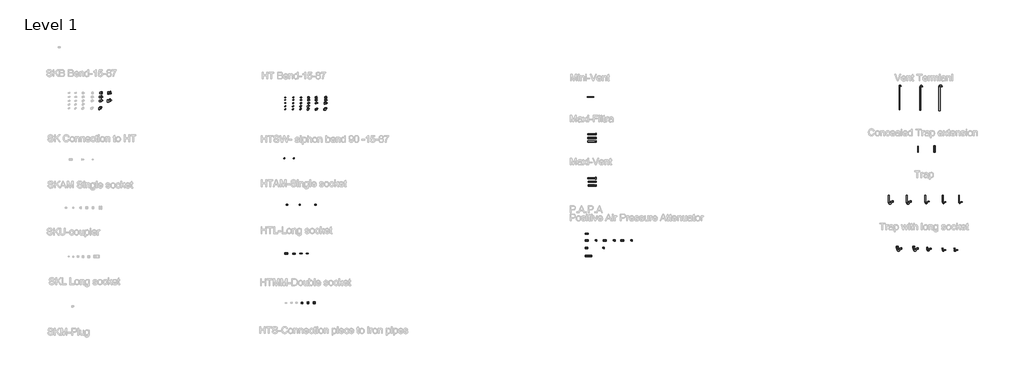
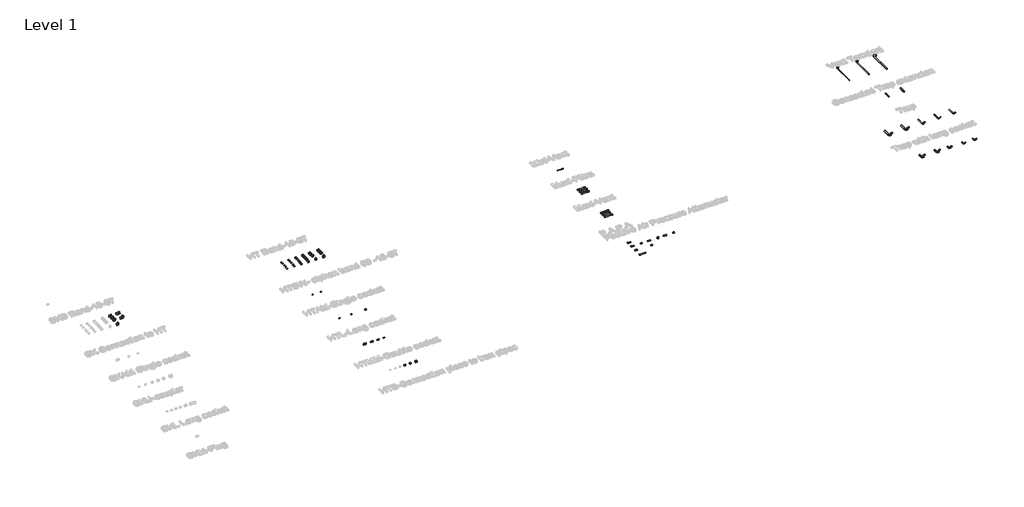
# One storey, part 3 of 29: 61 pipe fittings, 13 pipe segments, 11 valves, 3 coverings.
"""IFC4 building model written with IfcOpenShell, lengths in millimetres."""

from ifc_helpers import new_model, si_unit, point, frame, frame_2d, origin, place, context, project, spatial, circle_curve, trimmed, segment, composite_curve, outline, extrude, transform, mapped, element, save
from components import std_c07d875e, pipe_fitting_6eb50a13, pipe_fitting_cccb87dc, pipe_fitting_fc833b45, pipe_fitting_c942d72f, pipe_fitting_0ed91284, pipe_fitting_1532c8e4, pipe_fitting_fd9ef2f7, pipe_fitting_66c96be0, pipe_fitting_a0dc6f73, pipe_fitting_4eab0d71, pipe_fitting_4222d3d8, pipe_fitting_fda7960f, pipe_fitting_0d2e54e3, pipe_fitting_22db930d, pipe_fitting_aafaf56d, pipe_fitting_bdeb5dc4, pipe_fitting_e31660b5, pipe_fitting_5491f5a7, pipe_fitting_6273c53c, pipe_fitting_beb0df4e, pipe_fitting_cb3342d3, pipe_fitting_f4b4b27d, pipe_fitting_1b43bb9a, pipe_fitting_4065f76d, pipe_fitting_66a794e8, pipe_fitting_19b4c73e, pipe_fitting_52a06b67, pipe_fitting_5a3bc76c, pipe_fitting_a134182b, pipe_fitting_02cc564f, pipe_fitting_0a0cbaeb, pipe_fitting_b2053ce9, pipe_fitting_914f9591, pipe_fitting_105f839c, pipe_fitting_70a45752, pipe_fitting_c8df41f9, pipe_fitting_53c34404, pipe_fitting_e310fe68, pipe_fitting_67239808, pipe_fitting_48ac60f8, pipe_fitting_af56b474, pipe_fitting_9ea7e918, pipe_fitting_4dd23337, pipe_fitting_a972d585, pipe_fitting_531c0b5e, pipe_fitting_bc2beba0, pipe_fitting_799c62f6, pipe_fitting_26a0cade, pipe_fitting_4485368d, pipe_fitting_3becbbaa, pipe_fitting_54a89096, pipe_fitting_37d2b716, pipe_fitting_0eb0e26d, pipe_fitting_2dfee5c5, pipe_fitting_c8fc06a6, pipe_fitting_be7a3b5e, pipe_fitting_2ccdf74a, pipe_fitting_dd2cafb6, pipe_fitting_202c8df2, valve_b1cd4743, valve_471c44af, valve_1a6bec72, std_7a792acf

model = new_model("IFC4")

# Units and contexts
model_context = context("Model", 3, world=origin())
ifc_project = project(units=[si_unit("LENGTHUNIT", "METRE", prefix="MILLI")], contexts=[model_context])

# Site, building, storey
site = spatial("IfcSite", under=ifc_project)
building = spatial("IfcBuilding", under=site)
storey = spatial("IfcBuildingStorey", under=building, Name="Level 1", Elevation=0.0)

# Coverings
placement = place(None, origin())
std_shape = std_c07d875e(model_context)
element("IfcCovering", 1, ObjectType="Superdrain_alu cover -sh : std", at=placement, inside=storey, context=model_context, shape_type="MappedRepresentation", body=[
    mapped(std_shape, transform((44087.6298597, 20724.1021309, -0.0813961), x_axis=(0.00045242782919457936, 0.0, -0.9999998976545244), y_axis=(0.0, 0.9999999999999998, 0.0), z_axis=(0.9999998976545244, 0.0, 0.00045242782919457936))),
])
element("IfcCovering", 2, ObjectType="Superdrain_alu cover -sh : std", at=placement, inside=storey, context=model_context, shape_type="MappedRepresentation", body=[
    mapped(std_shape, transform((44076.9523644, 17155.0245715, -0.0813961), x_axis=(0.00045242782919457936, 0.0, -0.9999998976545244), y_axis=(0.0, 0.9999999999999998, 0.0), z_axis=(0.9999998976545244, 0.0, 0.00045242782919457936))),
])
element("IfcCovering", 3, ObjectType="Superdrain_alu cover -sh : std", at=placement, inside=storey, context=model_context, shape_type="MappedRepresentation", body=[
    mapped(std_shape, transform((45739.8178273, 11635.5641477, 0.0), x_axis=(0.0, 0.0, -1.0000000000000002), y_axis=(0.0, 1.0000000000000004, 0.0), z_axis=(1.0000000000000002, 0.0, 0.0))),
])

# Pipe fittings
pipe_fitting_shape = pipe_fitting_6eb50a13(model_context)
element("IfcPipeFitting", 4, ObjectType="Superdrain Vent Termianl : Superdrain Vent Termianl DN 50", at=placement, inside=storey, context=model_context, shape_type="MappedRepresentation", body=[
    mapped(pipe_fitting_shape, transform((71024.0446005, 23242.2226008, 249.0), x_axis=(1.0, 0.0, 0.0), y_axis=(0.0, 0.0, -1.0000000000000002), z_axis=(0.0, 1.0000000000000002, 0.0))),
])
pipe_fitting_2_shape = pipe_fitting_cccb87dc(model_context)
element("IfcPipeFitting", 5, ObjectType="Superdrain Vent Termianl : Superdrain Vent Termianl DN 75", at=placement, inside=storey, context=model_context, shape_type="MappedRepresentation", body=[
    mapped(pipe_fitting_2_shape, transform((72877.6964069, 23161.7714918, 249.0), x_axis=(1.0, 0.0, 0.0), y_axis=(0.0, 0.0, -1.0000000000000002), z_axis=(0.0, 1.0000000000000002, 0.0))),
])
pipe_fitting_3_shape = pipe_fitting_fc833b45(model_context)
element("IfcPipeFitting", 6, ObjectType="Superdrain Vent Termianl : Superdrain Vent Termianl DN 110", at=placement, inside=storey, context=model_context, shape_type="MappedRepresentation", body=[
    mapped(pipe_fitting_3_shape, transform((74564.3080035, 23114.8913816, 249.0), x_axis=(1.0, 0.0, 0.0), y_axis=(0.0, 0.0, -1.0000000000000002), z_axis=(0.0, 1.0000000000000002, 0.0))),
])
pipe_fitting_4_shape = pipe_fitting_c942d72f(model_context)
element("IfcPipeFitting", 7, ObjectType="Superdrain Concealed Trap extension : Superdrain Concealed Trap extension DN 50", at=placement, inside=storey, context=model_context, shape_type="MappedRepresentation", body=[
    mapped(pipe_fitting_4_shape, transform((72675.0256768, 19459.0765179, 275.0), x_axis=(0.0, 0.0, 1.0000000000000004), y_axis=(1.0000000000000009, 0.0, 0.0), z_axis=(0.0, 1.0000000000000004, 0.0))),
])
pipe_fitting_5_shape = pipe_fitting_0ed91284(model_context)
element("IfcPipeFitting", 8, ObjectType="Superdrain Concealed Trap extension : Superdrain Concealed Trap extension DN 110", at=placement, inside=storey, context=model_context, shape_type="MappedRepresentation", body=[
    mapped(pipe_fitting_5_shape, transform((74131.9084226, 19446.5765179, 294.8751277), x_axis=(0.0, 0.0, -1.0000000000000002), y_axis=(-1.0000000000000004, 0.0, 0.0), z_axis=(0.0, 1.0000000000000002, 0.0))),
])
pipe_fitting_6_shape = pipe_fitting_1532c8e4(model_context)
element("IfcPipeFitting", 9, ObjectType="Superdrain SKB Bend : Superdrain SKB Bend", at=placement, inside=storey, context=model_context, shape_type="MappedRepresentation", body=[
    mapped(pipe_fitting_6_shape, transform((250.4794661, 24709.074399, 0.0), x_axis=(1.0, 0.0, 0.0), y_axis=(0.0, 1.0, 0.0), z_axis=(0.0, 0.0, 1.0))),
])
pipe_fitting_7_shape = pipe_fitting_fd9ef2f7(model_context)
element("IfcPipeFitting", 10, ObjectType="Superdrain SKB Bend : Superdrain SKB Bend", at=placement, inside=storey, context=model_context, shape_type="MappedRepresentation", body=[
    mapped(pipe_fitting_7_shape, transform((250.4794661, 24352.4698153, 0.0), x_axis=(1.0, 0.0, 0.0), y_axis=(0.0, 1.0, 0.0), z_axis=(0.0, 0.0, 1.0))),
])
pipe_fitting_8_shape = pipe_fitting_66c96be0(model_context)
element("IfcPipeFitting", 11, ObjectType="Superdrain SKB Bend : Superdrain SKB Bend", at=placement, inside=storey, context=model_context, shape_type="MappedRepresentation", body=[
    mapped(pipe_fitting_8_shape, transform((250.4794661, 23995.8652317, 0.0), x_axis=(1.0, 0.0, 0.0), y_axis=(0.0, 1.0, 0.0), z_axis=(0.0, 0.0, 1.0))),
])
pipe_fitting_9_shape = pipe_fitting_a0dc6f73(model_context)
element("IfcPipeFitting", 12, ObjectType="Superdrain SKB Bend : Superdrain SKB Bend", at=placement, inside=storey, context=model_context, shape_type="MappedRepresentation", body=[
    mapped(pipe_fitting_9_shape, transform((250.4794661, 23322.0453883, 0.0), x_axis=(1.0, 0.0, 0.0), y_axis=(0.0, 1.0, 0.0), z_axis=(0.0, 0.0, 1.0))),
])
pipe_fitting_10_shape = pipe_fitting_4eab0d71(model_context)
element("IfcPipeFitting", 13, ObjectType="Superdrain SKB Bend : Superdrain SKB Bend", at=placement, inside=storey, context=model_context, shape_type="MappedRepresentation", body=[
    mapped(pipe_fitting_10_shape, transform((999.3677338, 24709.074399, 0.0), x_axis=(1.0, 0.0, 0.0), y_axis=(0.0, 1.0, 0.0), z_axis=(0.0, 0.0, 1.0))),
])
pipe_fitting_11_shape = pipe_fitting_4222d3d8(model_context)
element("IfcPipeFitting", 14, ObjectType="Superdrain SKB Bend : Superdrain SKB Bend", at=placement, inside=storey, context=model_context, shape_type="MappedRepresentation", body=[
    mapped(pipe_fitting_11_shape, transform((999.3677338, 23995.8652317, 0.0), x_axis=(1.0, 0.0, 0.0), y_axis=(0.0, 1.0, 0.0), z_axis=(0.0, 0.0, 1.0))),
])
pipe_fitting_12_shape = pipe_fitting_fda7960f(model_context)
element("IfcPipeFitting", 15, ObjectType="Superdrain HT bend : Superdrain HT Bend", at=placement, inside=storey, context=model_context, shape_type="MappedRepresentation", body=[
    mapped(pipe_fitting_12_shape, transform((16595.9305474, 24312.7216197, 0.0), x_axis=(1.0, 0.0, 0.0), y_axis=(0.0, 1.0, 0.0), z_axis=(0.0, 0.0, 1.0))),
])
pipe_fitting_13_shape = pipe_fitting_0d2e54e3(model_context)
element("IfcPipeFitting", 16, ObjectType="Superdrain HT bend : Superdrain HT Bend", at=placement, inside=storey, context=model_context, shape_type="MappedRepresentation", body=[
    mapped(pipe_fitting_13_shape, transform((16595.9305474, 24084.365173, 0.0), x_axis=(1.0, 0.0, 0.0), y_axis=(0.0, 1.0, 0.0), z_axis=(0.0, 0.0, 1.0))),
])
pipe_fitting_14_shape = pipe_fitting_22db930d(model_context)
element("IfcPipeFitting", 17, ObjectType="Superdrain HT bend : Superdrain HT Bend", at=placement, inside=storey, context=model_context, shape_type="MappedRepresentation", body=[
    mapped(pipe_fitting_14_shape, transform((16595.9305474, 23801.2668768, 0.0), x_axis=(1.0, 0.0, 0.0), y_axis=(0.0, 1.0, 0.0), z_axis=(0.0, 0.0, 1.0))),
])
pipe_fitting_15_shape = pipe_fitting_aafaf56d(model_context)
element("IfcPipeFitting", 18, ObjectType="Superdrain HT bend : Superdrain HT Bend", at=placement, inside=storey, context=model_context, shape_type="MappedRepresentation", body=[
    mapped(pipe_fitting_15_shape, transform((16595.9305474, 23512.7522037, 0.0), x_axis=(1.0, 0.0, 0.0), y_axis=(0.0, 1.0, 0.0), z_axis=(0.0, 0.0, 1.0))),
])
pipe_fitting_16_shape = pipe_fitting_bdeb5dc4(model_context)
element("IfcPipeFitting", 19, ObjectType="Superdrain HT bend : Superdrain HT Bend", at=placement, inside=storey, context=model_context, shape_type="MappedRepresentation", body=[
    mapped(pipe_fitting_16_shape, transform((16595.9305474, 23244.710463, 0.0), x_axis=(1.0, 0.0, 0.0), y_axis=(0.0, 1.0, 0.0), z_axis=(0.0, 0.0, 1.0))),
])
pipe_fitting_17_shape = pipe_fitting_e31660b5(model_context)
element("IfcPipeFitting", 20, ObjectType="Superdrain HT bend : Superdrain HT Bend", at=placement, inside=storey, context=model_context, shape_type="MappedRepresentation", body=[
    mapped(pipe_fitting_17_shape, transform((17295.9305474, 24312.7216197, 0.0), x_axis=(1.0, 0.0, 0.0), y_axis=(0.0, 1.0, 0.0), z_axis=(0.0, 0.0, 1.0))),
])
pipe_fitting_18_shape = pipe_fitting_5491f5a7(model_context)
element("IfcPipeFitting", 21, ObjectType="Superdrain HT bend : Superdrain HT Bend", at=placement, inside=storey, context=model_context, shape_type="MappedRepresentation", body=[
    mapped(pipe_fitting_18_shape, transform((17295.9305474, 24084.365173, 0.0), x_axis=(1.0, 0.0, 0.0), y_axis=(0.0, 1.0, 0.0), z_axis=(0.0, 0.0, 1.0))),
])
pipe_fitting_19_shape = pipe_fitting_6273c53c(model_context)
element("IfcPipeFitting", 22, ObjectType="Superdrain HT bend : Superdrain HT Bend", at=placement, inside=storey, context=model_context, shape_type="MappedRepresentation", body=[
    mapped(pipe_fitting_19_shape, transform((17295.9305474, 23801.2668768, 0.0), x_axis=(1.0, 0.0, 0.0), y_axis=(0.0, 1.0, 0.0), z_axis=(0.0, 0.0, 1.0))),
])
pipe_fitting_20_shape = pipe_fitting_beb0df4e(model_context)
element("IfcPipeFitting", 23, ObjectType="Superdrain HT bend : Superdrain HT Bend", at=placement, inside=storey, context=model_context, shape_type="MappedRepresentation", body=[
    mapped(pipe_fitting_20_shape, transform((17295.9305474, 23512.7522037, 0.0), x_axis=(1.0, 0.0, 0.0), y_axis=(0.0, 1.0, 0.0), z_axis=(0.0, 0.0, 1.0))),
])
pipe_fitting_21_shape = pipe_fitting_cb3342d3(model_context)
element("IfcPipeFitting", 24, ObjectType="Superdrain HT bend : Superdrain HT Bend", at=placement, inside=storey, context=model_context, shape_type="MappedRepresentation", body=[
    mapped(pipe_fitting_21_shape, transform((17295.9305474, 23244.710463, 0.0), x_axis=(1.0, 0.0, 0.0), y_axis=(0.0, 1.0, 0.0), z_axis=(0.0, 0.0, 1.0))),
])
pipe_fitting_22_shape = pipe_fitting_f4b4b27d(model_context)
element("IfcPipeFitting", 25, ObjectType="Superdrain HT bend : Superdrain HT Bend", at=placement, inside=storey, context=model_context, shape_type="MappedRepresentation", body=[
    mapped(pipe_fitting_22_shape, transform((17975.9305474, 24312.7216197, 0.0), x_axis=(1.0, 0.0, 0.0), y_axis=(0.0, 1.0, 0.0), z_axis=(0.0, 0.0, 1.0))),
])
pipe_fitting_23_shape = pipe_fitting_1b43bb9a(model_context)
element("IfcPipeFitting", 26, ObjectType="Superdrain HT bend : Superdrain HT Bend", at=placement, inside=storey, context=model_context, shape_type="MappedRepresentation", body=[
    mapped(pipe_fitting_23_shape, transform((17975.9305474, 24084.365173, 0.0), x_axis=(1.0, 0.0, 0.0), y_axis=(0.0, 1.0, 0.0), z_axis=(0.0, 0.0, 1.0))),
])
pipe_fitting_24_shape = pipe_fitting_4065f76d(model_context)
element("IfcPipeFitting", 27, ObjectType="Superdrain HT bend : Superdrain HT Bend", at=placement, inside=storey, context=model_context, shape_type="MappedRepresentation", body=[
    mapped(pipe_fitting_24_shape, transform((17975.9305474, 23801.2668768, 0.0), x_axis=(1.0, 0.0, 0.0), y_axis=(0.0, 1.0, 0.0), z_axis=(0.0, 0.0, 1.0))),
])
pipe_fitting_25_shape = pipe_fitting_66a794e8(model_context)
element("IfcPipeFitting", 28, ObjectType="Superdrain HT bend : Superdrain HT Bend", at=placement, inside=storey, context=model_context, shape_type="MappedRepresentation", body=[
    mapped(pipe_fitting_25_shape, transform((17975.9305474, 23512.7522037, 0.0), x_axis=(1.0, 0.0, 0.0), y_axis=(0.0, 1.0, 0.0), z_axis=(0.0, 0.0, 1.0))),
])
pipe_fitting_26_shape = pipe_fitting_19b4c73e(model_context)
element("IfcPipeFitting", 29, ObjectType="Superdrain HT bend : Superdrain HT Bend", at=placement, inside=storey, context=model_context, shape_type="MappedRepresentation", body=[
    mapped(pipe_fitting_26_shape, transform((17975.9305474, 23244.710463, 0.0), x_axis=(1.0, 0.0, 0.0), y_axis=(0.0, 1.0, 0.0), z_axis=(0.0, 0.0, 1.0))),
])
pipe_fitting_27_shape = pipe_fitting_52a06b67(model_context)
element("IfcPipeFitting", 30, ObjectType="Superdrain HT bend : Superdrain HT Bend", at=placement, inside=storey, context=model_context, shape_type="MappedRepresentation", body=[
    mapped(pipe_fitting_27_shape, transform((18664.8339318, 24312.7216197, 0.0), x_axis=(1.0, 0.0, 0.0), y_axis=(0.0, 1.0, 0.0), z_axis=(0.0, 0.0, 1.0))),
])
pipe_fitting_28_shape = pipe_fitting_5a3bc76c(model_context)
element("IfcPipeFitting", 31, ObjectType="Superdrain HT bend : Superdrain HT Bend", at=placement, inside=storey, context=model_context, shape_type="MappedRepresentation", body=[
    mapped(pipe_fitting_28_shape, transform((18664.8339318, 24084.365173, 0.0), x_axis=(1.0, 0.0, 0.0), y_axis=(0.0, 1.0, 0.0), z_axis=(0.0, 0.0, 1.0))),
])
pipe_fitting_29_shape = pipe_fitting_a134182b(model_context)
element("IfcPipeFitting", 32, ObjectType="Superdrain HT bend : Superdrain HT Bend", at=placement, inside=storey, context=model_context, shape_type="MappedRepresentation", body=[
    mapped(pipe_fitting_29_shape, transform((18664.8339318, 23801.2668768, 0.0), x_axis=(1.0, 0.0, 0.0), y_axis=(0.0, 1.0, 0.0), z_axis=(0.0, 0.0, 1.0))),
])
pipe_fitting_30_shape = pipe_fitting_02cc564f(model_context)
element("IfcPipeFitting", 33, ObjectType="Superdrain HT bend : Superdrain HT Bend", at=placement, inside=storey, context=model_context, shape_type="MappedRepresentation", body=[
    mapped(pipe_fitting_30_shape, transform((18664.8339318, 23512.7522037, 0.0), x_axis=(1.0, 0.0, 0.0), y_axis=(0.0, 1.0, 0.0), z_axis=(0.0, 0.0, 1.0))),
])
pipe_fitting_31_shape = pipe_fitting_0a0cbaeb(model_context)
element("IfcPipeFitting", 34, ObjectType="Superdrain HT bend : Superdrain HT Bend", at=placement, inside=storey, context=model_context, shape_type="MappedRepresentation", body=[
    mapped(pipe_fitting_31_shape, transform((18664.8339318, 23244.710463, 0.0), x_axis=(1.0, 0.0, 0.0), y_axis=(0.0, 1.0, 0.0), z_axis=(0.0, 0.0, 1.0))),
])
pipe_fitting_32_shape = pipe_fitting_b2053ce9(model_context)
element("IfcPipeFitting", 35, ObjectType="Superdrain HT bend : Superdrain HT Bend", at=placement, inside=storey, context=model_context, shape_type="MappedRepresentation", body=[
    mapped(pipe_fitting_32_shape, transform((19324.8339318, 24312.7216197, 0.0), x_axis=(1.0, 0.0, 0.0), y_axis=(0.0, 1.0, 0.0), z_axis=(0.0, 0.0, 1.0))),
])
pipe_fitting_33_shape = pipe_fitting_914f9591(model_context)
element("IfcPipeFitting", 36, ObjectType="Superdrain HT bend : Superdrain HT Bend", at=placement, inside=storey, context=model_context, shape_type="MappedRepresentation", body=[
    mapped(pipe_fitting_33_shape, transform((19324.8339318, 24084.365173, 0.0), x_axis=(1.0, 0.0, 0.0), y_axis=(0.0, 1.0, 0.0), z_axis=(0.0, 0.0, 1.0))),
])
pipe_fitting_34_shape = pipe_fitting_105f839c(model_context)
element("IfcPipeFitting", 37, ObjectType="Superdrain HT bend : Superdrain HT Bend", at=placement, inside=storey, context=model_context, shape_type="MappedRepresentation", body=[
    mapped(pipe_fitting_34_shape, transform((20171.9399159, 24312.7216197, 0.0), x_axis=(1.0, 0.0, 0.0), y_axis=(0.0, 1.0, 0.0), z_axis=(0.0, 0.0, 1.0))),
])
pipe_fitting_35_shape = pipe_fitting_70a45752(model_context)
element("IfcPipeFitting", 38, ObjectType="Superdrain HT bend : Superdrain HT Bend", at=placement, inside=storey, context=model_context, shape_type="MappedRepresentation", body=[
    mapped(pipe_fitting_35_shape, transform((20171.9399159, 24084.365173, 0.0), x_axis=(1.0, 0.0, 0.0), y_axis=(0.0, 1.0, 0.0), z_axis=(0.0, 0.0, 1.0))),
])
pipe_fitting_36_shape = pipe_fitting_c8df41f9(model_context)
element("IfcPipeFitting", 39, ObjectType="Superdrain HT bend : Superdrain HT Bend", at=placement, inside=storey, context=model_context, shape_type="MappedRepresentation", body=[
    mapped(pipe_fitting_36_shape, transform((20171.9399159, 23801.2668768, 0.0), x_axis=(1.0, 0.0, 0.0), y_axis=(0.0, 1.0, 0.0), z_axis=(0.0, 0.0, 1.0))),
])
pipe_fitting_37_shape = pipe_fitting_53c34404(model_context)
element("IfcPipeFitting", 40, ObjectType="Superdrain HT bend : Superdrain HT Bend", at=placement, inside=storey, context=model_context, shape_type="MappedRepresentation", body=[
    mapped(pipe_fitting_37_shape, transform((19391.9399159, 23244.710463, 0.0), x_axis=(1.0, 0.0, 0.0), y_axis=(0.0, 1.0, 0.0), z_axis=(0.0, 0.0, 1.0))),
])
pipe_fitting_38_shape = pipe_fitting_e310fe68(model_context)
element("IfcPipeFitting", 41, ObjectType="Superdrain HT bend : Superdrain HT Bend", at=placement, inside=storey, context=model_context, shape_type="MappedRepresentation", body=[
    mapped(pipe_fitting_38_shape, transform((19344.8339318, 23801.2668768, 0.0), x_axis=(1.0, 0.0, 0.0), y_axis=(0.0, 1.0, 0.0), z_axis=(0.0, 0.0, 1.0))),
])
pipe_fitting_39_shape = pipe_fitting_67239808(model_context)
element("IfcPipeFitting", 42, ObjectType="Superdrain HT bend : Superdrain HT Bend", at=placement, inside=storey, context=model_context, shape_type="MappedRepresentation", body=[
    mapped(pipe_fitting_39_shape, transform((20171.9399159, 23244.710463, 0.0), x_axis=(1.0, 0.0, 0.0), y_axis=(0.0, 1.0, 0.0), z_axis=(0.0, 0.0, 1.0))),
])
pipe_fitting_40_shape = pipe_fitting_48ac60f8(model_context)
element("IfcPipeFitting", 43, ObjectType="Superdrain HTSW- siphon bend 90 : Superdrain  HTSW- siphon bend 90", at=placement, inside=storey, context=model_context, shape_type="MappedRepresentation", body=[
    mapped(pipe_fitting_40_shape, transform((16541.8481426, 18902.3155015, 0.0), x_axis=(1.0, 0.0, 0.0), y_axis=(0.0, 1.0, 0.0), z_axis=(0.0, 0.0, 1.0))),
])
pipe_fitting_41_shape = pipe_fitting_af56b474(model_context)
element("IfcPipeFitting", 44, ObjectType="Superdrain HTSW- siphon bend 90 : Superdrain  HTSW- siphon bend 90", at=placement, inside=storey, context=model_context, shape_type="MappedRepresentation", body=[
    mapped(pipe_fitting_41_shape, transform((17361.8481426, 18902.3155015, 0.0), x_axis=(1.0, 0.0, 0.0), y_axis=(0.0, 1.0, 0.0), z_axis=(0.0, 0.0, 1.0))),
])
pipe_fitting_42_shape = pipe_fitting_9ea7e918(model_context)
element("IfcPipeFitting", 45, ObjectType="Superdrain HTAM-Single socket : Superdrain HTAM-Single socket", at=placement, inside=storey, context=model_context, shape_type="MappedRepresentation", body=[
    mapped(pipe_fitting_42_shape, transform((16744.627756, 14805.752581, 0.0), x_axis=(1.0, 0.0, 0.0), y_axis=(0.0, 1.0, 0.0), z_axis=(0.0, 0.0, 1.0))),
])
pipe_fitting_43_shape = pipe_fitting_4dd23337(model_context)
element("IfcPipeFitting", 46, ObjectType="Superdrain HTAM-Single socket : Superdrain HTAM-Single socket", at=placement, inside=storey, context=model_context, shape_type="MappedRepresentation", body=[
    mapped(pipe_fitting_43_shape, transform((19279.6832012, 14804.159831, 0.0), x_axis=(1.0, 0.0, 0.0), y_axis=(0.0, 1.0, 0.0), z_axis=(0.0, 0.0, 1.0))),
])
pipe_fitting_44_shape = pipe_fitting_a972d585(model_context)
element("IfcPipeFitting", 47, ObjectType="Superdrain HTMM-Double socket : Superdrain HTMM-Double socket", at=placement, inside=storey, context=model_context, shape_type="MappedRepresentation", body=[
    mapped(pipe_fitting_44_shape, transform((18059.7682012, 6113.6610392, 0.0), x_axis=(1.0, 0.0, 0.0), y_axis=(0.0, 1.0, 0.0), z_axis=(0.0, 0.0, 1.0))),
])
pipe_fitting_45_shape = pipe_fitting_531c0b5e(model_context)
element("IfcPipeFitting", 48, ObjectType="Superdrain HTMM-Double socket : Superdrain HTMM-Double socket", at=placement, inside=storey, context=model_context, shape_type="MappedRepresentation", body=[
    mapped(pipe_fitting_45_shape, transform((18594.6725971, 6113.6610392, 0.0), x_axis=(1.0, 0.0, 0.0), y_axis=(0.0, 1.0, 0.0), z_axis=(0.0, 0.0, 1.0))),
])
pipe_fitting_46_shape = pipe_fitting_bc2beba0(model_context)
element("IfcPipeFitting", 49, ObjectType="Superdrain HTMM-Double socket : Superdrain HTMM-Double socket", at=placement, inside=storey, context=model_context, shape_type="MappedRepresentation", body=[
    mapped(pipe_fitting_46_shape, transform((19146.9722579, 6113.6610392, 0.0), x_axis=(1.0, 0.0, 0.0), y_axis=(0.0, 1.0, 0.0), z_axis=(0.0, 0.0, 1.0))),
])
pipe_fitting_47_shape = pipe_fitting_799c62f6(model_context)
element("IfcPipeFitting", 50, ObjectType="Superdrain HTL-Long socket : Superdrain HTL-Long socket", at=placement, inside=storey, context=model_context, shape_type="MappedRepresentation", body=[
    mapped(pipe_fitting_47_shape, transform((16761.6083725, 10471.9556178, 0.0), x_axis=(1.0, 0.0, 0.0), y_axis=(0.0, 1.0, 0.0), z_axis=(0.0, 0.0, 1.0))),
])
pipe_fitting_48_shape = pipe_fitting_26a0cade(model_context)
element("IfcPipeFitting", 51, ObjectType="Superdrain HTL-Long socket : Superdrain HTL-Long socket", at=placement, inside=storey, context=model_context, shape_type="MappedRepresentation", body=[
    mapped(pipe_fitting_48_shape, transform((18030.7717484, 10471.9556178, 0.0), x_axis=(1.0, 0.0, 0.0), y_axis=(0.0, 1.0, 0.0), z_axis=(0.0, 0.0, 1.0))),
])
pipe_fitting_49_shape = pipe_fitting_4485368d(model_context)
element("IfcPipeFitting", 52, ObjectType="Superdrain HTL-Long socket : Superdrain HTL-Long socket", at=placement, inside=storey, context=model_context, shape_type="MappedRepresentation", body=[
    mapped(pipe_fitting_49_shape, transform((18581.1539326, 10471.9556178, 0.0), x_axis=(1.0, 0.0, 0.0), y_axis=(0.0, 1.0, 0.0), z_axis=(0.0, 0.0, 1.0))),
])
pipe_fitting_50_shape = pipe_fitting_3becbbaa(model_context)
element("IfcPipeFitting", 53, ObjectType="Superdrain Trap with long socket : Superdrain Trap with long socket", at=placement, inside=storey, context=model_context, shape_type="MappedRepresentation", body=[
    mapped(pipe_fitting_50_shape, transform((74842.2937244, 10801.1780174, 0.0), x_axis=(0.0, -1.0, 0.0), y_axis=(1.0, 0.0, 0.0), z_axis=(0.0, 0.0, 1.0))),
])
pipe_fitting_51_shape = pipe_fitting_54a89096(model_context)
element("IfcPipeFitting", 54, ObjectType="Superdrain Trap : Superdrain Trap", at=placement, inside=storey, context=model_context, shape_type="MappedRepresentation", body=[
    mapped(pipe_fitting_51_shape, transform((73324.4276795, 15088.2449647, 0.0), x_axis=(0.0, -1.0000000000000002, 0.0), y_axis=(1.0000000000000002, 0.0, 0.0), z_axis=(0.0, 0.0, 1.0))),
])
pipe_fitting_52_shape = pipe_fitting_37d2b716(model_context)
element("IfcPipeFitting", 55, ObjectType="Superdrain Trap : Superdrain Trap", at=placement, inside=storey, context=model_context, shape_type="MappedRepresentation", body=[
    mapped(pipe_fitting_52_shape, transform((76305.1579292, 15034.3037175, 0.0), x_axis=(0.0, -1.0, 0.0), y_axis=(1.0, 0.0, 0.0), z_axis=(0.0, 0.0, 1.0))),
])
pipe_fitting_53_shape = pipe_fitting_0eb0e26d(model_context)
element("IfcPipeFitting", 56, ObjectType="Superdrain Trap : Superdrain Trap", at=placement, inside=storey, context=model_context, shape_type="MappedRepresentation", body=[
    mapped(pipe_fitting_53_shape, transform((74867.681957, 15034.3037175, 0.0), x_axis=(0.0, -1.0000000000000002, 0.0), y_axis=(1.0000000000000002, 0.0, 0.0), z_axis=(0.0, 0.0, 1.0))),
])
pipe_fitting_54_shape = pipe_fitting_2dfee5c5(model_context)
element("IfcPipeFitting", 57, ObjectType="Superdrain Trap : Superdrain Trap", at=placement, inside=storey, context=model_context, shape_type="MappedRepresentation", body=[
    mapped(pipe_fitting_54_shape, transform((70073.2420133, 15088.2449647, 0.0), x_axis=(0.0, -1.0, 0.0), y_axis=(1.0, 0.0, 0.0), z_axis=(0.0, 0.0, 1.0))),
])
pipe_fitting_55_shape = pipe_fitting_c8fc06a6(model_context)
element("IfcPipeFitting", 58, ObjectType="Superdrain Trap : Superdrain Trap", at=placement, inside=storey, context=model_context, shape_type="MappedRepresentation", body=[
    mapped(pipe_fitting_55_shape, transform((71673.2420133, 15088.2449647, 0.0), x_axis=(0.0, -1.0, 0.0), y_axis=(1.0, 0.0, 0.0), z_axis=(0.0, 0.0, 1.0))),
])
pipe_fitting_56_shape = pipe_fitting_be7a3b5e(model_context)
element("IfcPipeFitting", 59, ObjectType="Superdrain Trap with long socket : Superdrain Trap with long socket", at=placement, inside=storey, context=model_context, shape_type="MappedRepresentation", body=[
    mapped(pipe_fitting_56_shape, transform((70829.5437244, 10925.9280174, 0.0), x_axis=(0.0, -1.0000000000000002, 0.0), y_axis=(1.0000000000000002, 0.0, 0.0), z_axis=(0.0, 0.0, 1.0))),
])
element("IfcPipeFitting", 60, ObjectType="Superdrain Trap with long socket : Superdrain Trap with long socket", at=placement, inside=storey, context=model_context, shape_type="MappedRepresentation", body=[
    mapped(pipe_fitting_56_shape, transform((72289.5437244, 10925.9280174, 0.0), x_axis=(0.0, -1.0000000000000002, 0.0), y_axis=(1.0000000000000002, 0.0, 0.0), z_axis=(0.0, 0.0, 1.0))),
])
pipe_fitting_57_shape = pipe_fitting_2ccdf74a(model_context)
element("IfcPipeFitting", 61, ObjectType="Superdrain Trap with long socket : Superdrain Trap with long socket", at=placement, inside=storey, context=model_context, shape_type="MappedRepresentation", body=[
    mapped(pipe_fitting_57_shape, transform((73482.2937244, 10901.1780174, 0.0), x_axis=(0.0, -1.0, 0.0), y_axis=(1.0, 0.0, 0.0), z_axis=(0.0, 0.0, 1.0))),
])
element("IfcPipeFitting", 62, ObjectType="Superdrain Trap with long socket : Superdrain Trap with long socket", at=placement, inside=storey, context=model_context, shape_type="MappedRepresentation", body=[
    mapped(pipe_fitting_50_shape, transform((75902.2937244, 10801.1780174, 0.0), x_axis=(0.0, -1.0, 0.0), y_axis=(1.0, 0.0, 0.0), z_axis=(0.0, 0.0, 1.0))),
])
pipe_fitting_58_shape = pipe_fitting_dd2cafb6(model_context)
element("IfcPipeFitting", 63, ObjectType="Superdrain HTAM-Single socket : Superdrain HTAM-Single socket", at=placement, inside=storey, context=model_context, shape_type="MappedRepresentation", body=[
    mapped(pipe_fitting_58_shape, transform((17891.7592104, 14804.159831, 0.0), x_axis=(1.0, 0.0, 0.0), y_axis=(0.0, 1.0, 0.0), z_axis=(0.0, 0.0, 1.0))),
])
pipe_fitting_59_shape = pipe_fitting_202c8df2(model_context)
element("IfcPipeFitting", 64, ObjectType="Superdrain HTL-Long socket : Superdrain HTL-Long socket", at=placement, inside=storey, context=model_context, shape_type="MappedRepresentation", body=[
    mapped(pipe_fitting_59_shape, transform((17434.2717959, 10471.9556178, 0.0), x_axis=(1.0, 0.0, 0.0), y_axis=(0.0, 1.0, 0.0), z_axis=(0.0, 0.0, 1.0))),
])

# Pipe segments
element("IfcPipeSegment", 65, ObjectType="Superdrain Double socket pipe HTEM - 3000 mm", at=placement, inside=storey, context=model_context, shape_type="SweptSolid", body=[
    extrude(outline(composite_curve([segment(trimmed(circle_curve(frame_2d((11635.5641477, 0.0)), 55.0), [point((11580.5641477, 0.0))], [point((11635.5641477, 55.0))], False, "CARTESIAN"), True, "CONTINUOUS"), segment(trimmed(circle_curve(frame_2d((11635.5641477, 0.0)), 55.0), [point((11635.5641477, 55.0))], [point((11690.5641477, 0.0))], False, "CARTESIAN"), True, "CONTINUOUS"), segment(trimmed(circle_curve(frame_2d((11635.5641477, 0.0)), 55.0), [point((11690.5641477, 0.0))], [point((11635.5641477, -55.0))], False, "CARTESIAN"), True, "CONTINUOUS"), segment(trimmed(circle_curve(frame_2d((11635.5641477, 0.0)), 55.0), [point((11635.5641477, -55.0))], [point((11580.5641477, 0.0))], False, "CARTESIAN"), True, "CONTINUOUS")], self_intersect=False)), frame((43171.605451, 0.0, 0.0), z_axis=(1.0, 0.0, 0.0), x_axis=(0.0, 1.0, 0.0)), (0.0, 0.0, 1.0), 272.1309433),
])
element("IfcPipeSegment", 66, ObjectType="Superdrain Double socket pipe HTEM - 3000 mm", at=placement, inside=storey, context=model_context, shape_type="SweptSolid", body=[
    extrude(outline(composite_curve([segment(trimmed(circle_curve(frame_2d((10256.6211127, 0.0)), 55.0), [point((10201.6211127, 0.0))], [point((10256.6211127, 55.0))], False, "CARTESIAN"), True, "CONTINUOUS"), segment(trimmed(circle_curve(frame_2d((10256.6211127, 0.0)), 55.0), [point((10256.6211127, 55.0))], [point((10311.6211127, 0.0))], False, "CARTESIAN"), True, "CONTINUOUS"), segment(trimmed(circle_curve(frame_2d((10256.6211127, 0.0)), 55.0), [point((10311.6211127, 0.0))], [point((10256.6211127, -55.0))], False, "CARTESIAN"), True, "CONTINUOUS"), segment(trimmed(circle_curve(frame_2d((10256.6211127, 0.0)), 55.0), [point((10256.6211127, -55.0))], [point((10201.6211127, 0.0))], False, "CARTESIAN"), True, "CONTINUOUS")], self_intersect=False)), frame((43171.605451, 0.0, 0.0), z_axis=(1.0, 0.0, 0.0), x_axis=(0.0, 1.0, 0.0)), (0.0, 0.0, 1.0), 605.3668832),
])
element("IfcPipeSegment", 67, ObjectType="Superdrain Double socket pipe HTEM - 3000 mm", at=placement, inside=storey, context=model_context, shape_type="SweptSolid", body=[
    extrude(outline(composite_curve([segment(trimmed(circle_curve(frame_2d((10974.1475622, 0.0)), 55.0), [point((11029.1475622, 0.0))], [point((10974.1475622, -55.0))], False, "CARTESIAN"), True, "CONTINUOUS"), segment(trimmed(circle_curve(frame_2d((10974.1475622, 0.0)), 55.0), [point((10974.1475622, -55.0))], [point((10919.1475622, 0.0))], False, "CARTESIAN"), True, "CONTINUOUS"), segment(trimmed(circle_curve(frame_2d((10974.1475622, 0.0)), 55.0), [point((10919.1475622, 0.0))], [point((10974.1475622, 55.0))], False, "CARTESIAN"), True, "CONTINUOUS"), segment(trimmed(circle_curve(frame_2d((10974.1475622, 0.0)), 55.0), [point((10974.1475622, 55.0))], [point((11029.1475622, 0.0))], False, "CARTESIAN"), True, "CONTINUOUS")], self_intersect=False)), frame((43171.605451, 0.0, 0.0), z_axis=(1.0, 0.0, 0.0), x_axis=(0.0, 1.0, 0.0)), (0.0, 0.0, 1.0), 234.8371933),
])
element("IfcPipeSegment", 68, ObjectType="Superdrain Double socket pipe HTEM - 3000 mm", at=placement, inside=storey, context=model_context, shape_type="SweptSolid", body=[
    extrude(outline(composite_curve([segment(trimmed(circle_curve(frame_2d((17155.0245715, 0.0)), 55.0), [point((17210.0245715, 0.0))], [point((17155.0245715, -55.0))], False, "CARTESIAN"), True, "CONTINUOUS"), segment(trimmed(circle_curve(frame_2d((17155.0245715, 0.0)), 55.0), [point((17155.0245715, -55.0))], [point((17100.0245715, 0.0))], False, "CARTESIAN"), True, "CONTINUOUS"), segment(trimmed(circle_curve(frame_2d((17155.0245715, 0.0)), 55.0), [point((17100.0245715, 0.0))], [point((17155.0245715, 55.0))], False, "CARTESIAN"), True, "CONTINUOUS"), segment(trimmed(circle_curve(frame_2d((17155.0245715, 0.0)), 55.0), [point((17155.0245715, 55.0))], [point((17210.0245715, 0.0))], False, "CARTESIAN"), True, "CONTINUOUS")], self_intersect=False)), frame((43422.6128334, 0.0, 0.0), z_axis=(1.0, 0.0, 0.0), x_axis=(0.0, 1.0, 0.0)), (0.0, 0.0, 1.0), 599.6668832),
])
element("IfcPipeSegment", 69, ObjectType="Superdrain Double socket pipe HTEM - 3000 mm", at=placement, inside=storey, context=model_context, shape_type="SweptSolid", body=[
    extrude(outline(composite_curve([segment(trimmed(circle_curve(frame_2d((21061.9909793, 0.0)), 55.0), [point((21006.9909793, 0.0))], [point((21061.9909793, 55.0))], False, "CARTESIAN"), True, "CONTINUOUS"), segment(trimmed(circle_curve(frame_2d((21061.9909793, 0.0)), 55.0), [point((21061.9909793, 55.0))], [point((21116.9909793, 0.0))], False, "CARTESIAN"), True, "CONTINUOUS"), segment(trimmed(circle_curve(frame_2d((21061.9909793, 0.0)), 55.0), [point((21116.9909793, 0.0))], [point((21061.9909793, -55.0))], False, "CARTESIAN"), True, "CONTINUOUS"), segment(trimmed(circle_curve(frame_2d((21061.9909793, 0.0)), 55.0), [point((21061.9909793, -55.0))], [point((21006.9909793, 0.0))], False, "CARTESIAN"), True, "CONTINUOUS")], self_intersect=False)), frame((43422.1384268, 0.0, 0.0), z_axis=(1.0, 0.0, 0.0), x_axis=(0.0, 1.0, 0.0)), (0.0, 0.0, 1.0), 599.6668832),
])
element("IfcPipeSegment", 70, ObjectType="Superdrain Double socket pipe HTEM - 3000 mm", at=placement, inside=storey, context=model_context, shape_type="SweptSolid", body=[
    extrude(outline(composite_curve([segment(trimmed(circle_curve(frame_2d((20724.1021309, 0.0)), 55.0), [point((20779.1021309, 0.0))], [point((20724.1021309, -55.0))], False, "CARTESIAN"), True, "CONTINUOUS"), segment(trimmed(circle_curve(frame_2d((20724.1021309, 0.0)), 55.0), [point((20724.1021309, -55.0))], [point((20669.1021309, 0.0))], False, "CARTESIAN"), True, "CONTINUOUS"), segment(trimmed(circle_curve(frame_2d((20724.1021309, 0.0)), 55.0), [point((20669.1021309, 0.0))], [point((20724.1021309, 55.0))], False, "CARTESIAN"), True, "CONTINUOUS"), segment(trimmed(circle_curve(frame_2d((20724.1021309, 0.0)), 55.0), [point((20724.1021309, 55.0))], [point((20779.1021309, 0.0))], False, "CARTESIAN"), True, "CONTINUOUS")], self_intersect=False)), frame((43422.1384268, 0.0, 0.0), z_axis=(1.0, 0.0, 0.0), x_axis=(0.0, 1.0, 0.0)), (0.0, 0.0, 1.0), 599.6668832),
])
element("IfcPipeSegment", 71, ObjectType="Superdrain Single socket pipe HTEM - 3000 mm", at=placement, inside=storey, context=model_context, shape_type="SweptSolid", body=[
    extrude(outline(composite_curve([segment(trimmed(circle_curve(frame_2d((24363.1809942, 0.0)), 25.0), [point((24388.1809942, 0.0))], [point((24363.1809942, -25.0))], False, "CARTESIAN"), True, "CONTINUOUS"), segment(trimmed(circle_curve(frame_2d((24363.1809942, 0.0)), 25.0), [point((24363.1809942, -25.0))], [point((24338.1809942, 0.0))], False, "CARTESIAN"), True, "CONTINUOUS"), segment(trimmed(circle_curve(frame_2d((24363.1809942, 0.0)), 25.0), [point((24338.1809942, 0.0))], [point((24363.1809942, 25.0))], False, "CARTESIAN"), True, "CONTINUOUS"), segment(trimmed(circle_curve(frame_2d((24363.1809942, 0.0)), 25.0), [point((24363.1809942, 25.0))], [point((24388.1809942, 0.0))], False, "CARTESIAN"), True, "CONTINUOUS")], self_intersect=False)), frame((43378.5568275, 0.0, 0.0), z_axis=(1.0, 0.0, 0.0), x_axis=(0.0, 1.0, 0.0)), (0.0, 0.0, 1.0), 490.8),
])
element("IfcPipeSegment", 72, ObjectType="Superdrain Double socket pipe HTEM - 3000 mm", at=placement, inside=storey, context=model_context, shape_type="SweptSolid", body=[
    extrude(outline(composite_curve([segment(trimmed(circle_curve(frame_2d((12235.5641477, 0.0)), 55.0), [point((12180.5641477, 0.0))], [point((12235.5641477, 55.0))], False, "CARTESIAN"), True, "CONTINUOUS"), segment(trimmed(circle_curve(frame_2d((12235.5641477, 0.0)), 55.0), [point((12235.5641477, 55.0))], [point((12290.5641477, 0.0))], False, "CARTESIAN"), True, "CONTINUOUS"), segment(trimmed(circle_curve(frame_2d((12235.5641477, 0.0)), 55.0), [point((12290.5641477, 0.0))], [point((12235.5641477, -55.0))], False, "CARTESIAN"), True, "CONTINUOUS"), segment(trimmed(circle_curve(frame_2d((12235.5641477, 0.0)), 55.0), [point((12235.5641477, -55.0))], [point((12180.5641477, 0.0))], False, "CARTESIAN"), True, "CONTINUOUS")], self_intersect=False)), frame((43171.605451, 0.0, 0.0), z_axis=(1.0, 0.0, 0.0), x_axis=(0.0, 1.0, 0.0)), (0.0, 0.0, 1.0), 272.1309433),
])
element("IfcPipeSegment", 73, ObjectType="Superdrain Double socket pipe HTEM - 3000 mm", at=placement, inside=storey, context=model_context, shape_type="SweptSolid", body=[
    extrude(outline(composite_curve([segment(trimmed(circle_curve(frame_2d((11635.5641477, 0.0)), 55.0), [point((11580.5641477, 0.0))], [point((11635.5641477, 55.0))], False, "CARTESIAN"), True, "CONTINUOUS"), segment(trimmed(circle_curve(frame_2d((11635.5641477, 0.0)), 55.0), [point((11635.5641477, 55.0))], [point((11690.5641477, 0.0))], False, "CARTESIAN"), True, "CONTINUOUS"), segment(trimmed(circle_curve(frame_2d((11635.5641477, 0.0)), 55.0), [point((11690.5641477, 0.0))], [point((11635.5641477, -55.0))], False, "CARTESIAN"), True, "CONTINUOUS"), segment(trimmed(circle_curve(frame_2d((11635.5641477, 0.0)), 55.0), [point((11635.5641477, -55.0))], [point((11580.5641477, 0.0))], False, "CARTESIAN"), True, "CONTINUOUS")], self_intersect=False)), frame((44771.605451, 0.0, 0.0), z_axis=(1.0, 0.0, 0.0), x_axis=(0.0, 1.0, 0.0)), (0.0, 0.0, 1.0), 272.1309433),
])
element("IfcPipeSegment", 74, ObjectType="Superdrain Double socket pipe HTEM - 3000 mm", at=placement, inside=storey, context=model_context, shape_type="SweptSolid", body=[
    extrude(outline(composite_curve([segment(trimmed(circle_curve(frame_2d((16844.7692072, 0.0)), 55.0), [point((16789.7692072, 0.0))], [point((16844.7692072, 55.0))], False, "CARTESIAN"), True, "CONTINUOUS"), segment(trimmed(circle_curve(frame_2d((16844.7692072, 0.0)), 55.0), [point((16844.7692072, 55.0))], [point((16899.7692072, 0.0))], False, "CARTESIAN"), True, "CONTINUOUS"), segment(trimmed(circle_curve(frame_2d((16844.7692072, 0.0)), 55.0), [point((16899.7692072, 0.0))], [point((16844.7692072, -55.0))], False, "CARTESIAN"), True, "CONTINUOUS"), segment(trimmed(circle_curve(frame_2d((16844.7692072, 0.0)), 55.0), [point((16844.7692072, -55.0))], [point((16789.7692072, 0.0))], False, "CARTESIAN"), True, "CONTINUOUS")], self_intersect=False)), frame((43425.4385351, 0.0, 0.0), z_axis=(1.0, 0.0, 0.0), x_axis=(0.0, 1.0, 0.0)), (0.0, 0.0, 1.0), 599.6668832),
])
element("IfcPipeSegment", 75, ObjectType="Superdrain Double socket pipe HTEM - 3000 mm", at=placement, inside=storey, context=model_context, shape_type="SweptSolid", body=[
    extrude(outline(composite_curve([segment(trimmed(circle_curve(frame_2d((16505.2351654, 0.0)), 55.0), [point((16560.2351654, 0.0))], [point((16505.2351654, -55.0))], False, "CARTESIAN"), True, "CONTINUOUS"), segment(trimmed(circle_curve(frame_2d((16505.2351654, 0.0)), 55.0), [point((16505.2351654, -55.0))], [point((16450.2351654, 0.0))], False, "CARTESIAN"), True, "CONTINUOUS"), segment(trimmed(circle_curve(frame_2d((16505.2351654, 0.0)), 55.0), [point((16450.2351654, 0.0))], [point((16505.2351654, 55.0))], False, "CARTESIAN"), True, "CONTINUOUS"), segment(trimmed(circle_curve(frame_2d((16505.2351654, 0.0)), 55.0), [point((16505.2351654, 55.0))], [point((16560.2351654, 0.0))], False, "CARTESIAN"), True, "CONTINUOUS")], self_intersect=False)), frame((43425.4385351, 0.0, 0.0), z_axis=(1.0, 0.0, 0.0), x_axis=(0.0, 1.0, 0.0)), (0.0, 0.0, 1.0), 617.4611083),
])
element("IfcPipeSegment", 76, ObjectType="Superdrain Double socket pipe HTEM - 3000 mm", at=placement, inside=storey, context=model_context, shape_type="SweptSolid", body=[
    extrude(outline(composite_curve([segment(trimmed(circle_curve(frame_2d((20400.5614799, 0.0)), 55.0), [point((20345.5614799, 0.0))], [point((20400.5614799, 55.0))], False, "CARTESIAN"), True, "CONTINUOUS"), segment(trimmed(circle_curve(frame_2d((20400.5614799, 0.0)), 55.0), [point((20400.5614799, 55.0))], [point((20455.5614799, 0.0))], False, "CARTESIAN"), True, "CONTINUOUS"), segment(trimmed(circle_curve(frame_2d((20400.5614799, 0.0)), 55.0), [point((20455.5614799, 0.0))], [point((20400.5614799, -55.0))], False, "CARTESIAN"), True, "CONTINUOUS"), segment(trimmed(circle_curve(frame_2d((20400.5614799, 0.0)), 55.0), [point((20400.5614799, -55.0))], [point((20345.5614799, 0.0))], False, "CARTESIAN"), True, "CONTINUOUS")], self_intersect=False)), frame((43422.1384268, 0.0, 0.0), z_axis=(1.0, 0.0, 0.0), x_axis=(0.0, 1.0, 0.0)), (0.0, 0.0, 1.0), 599.6668832),
])
element("IfcPipeSegment", 77, ObjectType="Superdrain Double socket pipe HTEM - 3000 mm", at=placement, inside=storey, context=model_context, shape_type="SweptSolid", body=[
    extrude(outline(composite_curve([segment(trimmed(circle_curve(frame_2d((11635.5641477, 0.0)), 55.0), [point((11580.5641477, 0.0))], [point((11635.5641477, 55.0))], False, "CARTESIAN"), True, "CONTINUOUS"), segment(trimmed(circle_curve(frame_2d((11635.5641477, 0.0)), 55.0), [point((11635.5641477, 55.0))], [point((11690.5641477, 0.0))], False, "CARTESIAN"), True, "CONTINUOUS"), segment(trimmed(circle_curve(frame_2d((11635.5641477, 0.0)), 55.0), [point((11690.5641477, 0.0))], [point((11635.5641477, -55.0))], False, "CARTESIAN"), True, "CONTINUOUS"), segment(trimmed(circle_curve(frame_2d((11635.5641477, 0.0)), 55.0), [point((11635.5641477, -55.0))], [point((11580.5641477, 0.0))], False, "CARTESIAN"), True, "CONTINUOUS")], self_intersect=False)), frame((46311.605451, 0.0, 0.0), z_axis=(1.0, 0.0, 0.0), x_axis=(0.0, 1.0, 0.0)), (0.0, 0.0, 1.0), 272.1309433),
])

# Valves
valve_shape = valve_b1cd4743(model_context)
element("IfcValve", 78, ObjectType="Superdrain_Maxi-Filtra : Superdrain_Maxi-Filtra DN100", at=placement, inside=storey, context=model_context, shape_type="MappedRepresentation", body=[
    mapped(valve_shape, transform((44022.1384268, 20400.5614799, 0.0), x_axis=(1.0, 0.0, 0.0), y_axis=(0.0, 1.0, 0.0), z_axis=(0.0, 0.0, 1.0))),
])
valve_2_shape = valve_471c44af(model_context)
element("IfcValve", 79, ObjectType="Superdrain_Mini-Vent : Superdrain_ Mini-Vent DN 50", at=placement, inside=storey, context=model_context, shape_type="MappedRepresentation", body=[
    mapped(valve_2_shape, transform((43869.3568275, 24363.1809942, 0.0), x_axis=(1.0, 0.0, 0.0), y_axis=(0.0, 0.9999999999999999, 0.0), z_axis=(0.0, 0.0, 0.9999999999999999))),
])
valve_3_shape = valve_1a6bec72(model_context)
element("IfcValve", 80, ObjectType="Superdrain_Maxi-Vent : Superdrain Maxi-Vent DN100", at=placement, inside=storey, context=model_context, shape_type="MappedRepresentation", body=[
    mapped(valve_3_shape, transform((44043.2327603, 16505.2351654, 0.0), x_axis=(1.0, 0.0, 0.0), y_axis=(0.0, 1.0, 0.0), z_axis=(0.0, 0.0, 1.0))),
])
element("IfcValve", 81, ObjectType="Superdrain_Maxi-Filtra : Superdrain_Maxi-Filtra DN100", at=placement, inside=storey, context=model_context, shape_type="MappedRepresentation", body=[
    mapped(valve_shape, transform((44022.1384268, 21061.9909793, 0.0), x_axis=(1.0, 0.0, 0.0), y_axis=(0.0, 1.0, 0.0), z_axis=(0.0, 0.0, 1.0))),
])
element("IfcValve", 82, ObjectType="Superdrain_Maxi-Filtra : Superdrain_Maxi-Filtra DN100", at=placement, inside=storey, context=model_context, shape_type="MappedRepresentation", body=[
    mapped(valve_shape, transform((44022.1384268, 20724.1021309, 0.0), x_axis=(1.0, 0.0, 0.0), y_axis=(0.0, 1.0, 0.0), z_axis=(0.0, 0.0, 1.0))),
])
element("IfcValve", 83, ObjectType="Superdrain_Maxi-Vent : Superdrain Maxi-Vent DN100", at=placement, inside=storey, context=model_context, shape_type="MappedRepresentation", body=[
    mapped(valve_3_shape, transform((44022.6128334, 17155.0245715, 0.0), x_axis=(1.0, 0.0, 0.0), y_axis=(0.0, 1.0, 0.0), z_axis=(0.0, 0.0, 1.0))),
])
element("IfcValve", 84, ObjectType="Superdrain_Maxi-Vent : Superdrain Maxi-Vent DN100", at=placement, inside=storey, context=model_context, shape_type="MappedRepresentation", body=[
    mapped(valve_3_shape, transform((44025.4385351, 16844.7692072, 0.0), x_axis=(1.0, 0.0, 0.0), y_axis=(0.0, 1.0, 0.0), z_axis=(0.0, 0.0, 1.0))),
])
std_2_shape = std_7a792acf(model_context)
element("IfcValve", 85, ObjectType="Superdrain_Maxi-Vent -sh : std", at=placement, inside=storey, context=model_context, shape_type="MappedRepresentation", body=[
    mapped(std_2_shape, transform((44711.5762242, 10974.1475622, 0.0), x_axis=(0.0, 1.0000000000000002, 0.0), y_axis=(0.0, 0.0, 1.0000000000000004), z_axis=(1.0000000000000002, 0.0, 0.0))),
])
element("IfcValve", 86, ObjectType="Superdrain_Maxi-Vent -sh : std", at=placement, inside=storey, context=model_context, shape_type="MappedRepresentation", body=[
    mapped(std_2_shape, transform((44077.4732522, 11635.5641477, 0.0), x_axis=(0.0, 0.0, -1.0000000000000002), y_axis=(0.0, 1.0000000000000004, 0.0), z_axis=(1.0000000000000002, 0.0, 0.0))),
])
element("IfcValve", 87, ObjectType="Superdrain_Maxi-Vent -sh : std", at=placement, inside=storey, context=model_context, shape_type="MappedRepresentation", body=[
    mapped(std_2_shape, transform((45677.4732522, 11635.5641477, 0.0), x_axis=(0.0, 0.0, -1.0000000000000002), y_axis=(0.0, 1.0000000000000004, 0.0), z_axis=(1.0000000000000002, 0.0, 0.0))),
])
element("IfcValve", 88, ObjectType="Superdrain_Maxi-Vent -sh : std", at=placement, inside=storey, context=model_context, shape_type="MappedRepresentation", body=[
    mapped(std_2_shape, transform((47217.4732522, 11635.5641477, 0.0), x_axis=(0.0, 0.0, -1.0000000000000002), y_axis=(0.0, 1.0000000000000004, 0.0), z_axis=(1.0000000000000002, 0.0, 0.0))),
])

save(model, "model.ifc")
